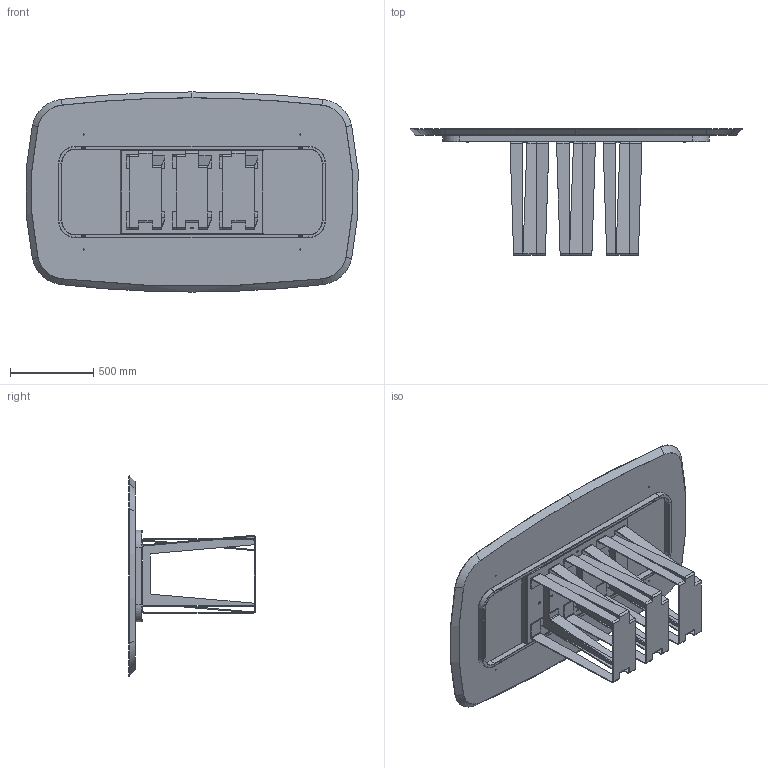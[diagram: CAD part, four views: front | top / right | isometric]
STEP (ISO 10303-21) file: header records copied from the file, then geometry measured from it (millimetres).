
FILE_DESCRIPTION (( 'STEP AP203' ), '1' );
FILE_NAME ('NA41W.STEP', '2024-08-07T14:39:27', ( '' ), ( '' ), 'SwSTEP 2.0', 'SolidWorks 2022', '' );
FILE_SCHEMA (( 'CONFIG_CONTROL_DESIGN' ));
Length unit declared in the file: millimetre
Products named in the file (7): NAB000000-00-NARCISO BASE SING. GREZZA; TTAV01_02-01-VASSOIO IRRIGIDIMENTO TELAIO UNIVERSALE; NA41W; TTAV01-01-TELAIO UNIVERSALE X TAVOLI 180 240cm; W4XCMXX-00-Piani Sagomati legno_ 2000 x 1200; M8xXXmm_M8x55mm; TTAV01_01-01-TELAIO UNIVERSALE X TAVOLI 180 240cm_Default<A macchina>
Assembly tree (17 placements, depth 3):
  NA41W
    W4XCMXX-00-Piani Sagomati legno_ 2000 x 1200
    TTAV01-01-TELAIO UNIVERSALE X TAVOLI 180 240cm
      TTAV01_01-01-TELAIO UNIVERSALE X TAVOLI 180 240cm_Default<A macchina>
      TTAV01_02-01-VASSOIO IRRIGIDIMENTO TELAIO UNIVERSALE
    NAB000000-00-NARCISO BASE SING. GREZZA  x3
    M8xXXmm_M8x55mm  x10
Bounding box: 1990.53 x 758 x 1200 mm (x, y, z)
Volume: 93059528.4 mm3; surface area: 9487114.3 mm2
Topology: 26 solids, 26 shells, 1150 faces, 2815 edges, 1693 vertices
Faces by surface type: plane 577, cylinder 303, cone 153, torus 81, bspline 36
Entity records: 19025 total; most frequent: CARTESIAN_POINT 3431, DIRECTION 3140, ORIENTED_EDGE 2958, EDGE_CURVE 1479, AXIS2_PLACEMENT_3D 1122, VERTEX_POINT 937, LINE 896, VECTOR 896
